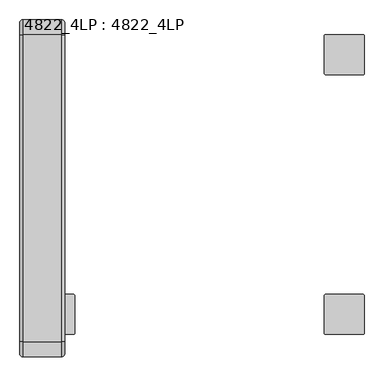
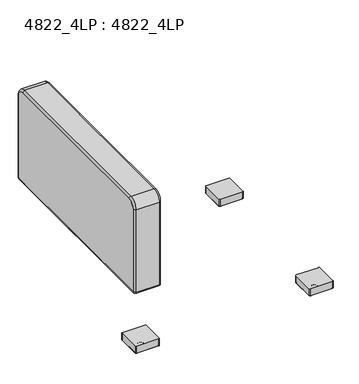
"""IFC4 building model written with IfcOpenShell, lengths in millimetres: furniture geometry, 4822_4LP : 4822_4LP."""

from ifc_helpers import new_model, si_unit, point, frame, frame_2d, origin, place, context, project, spatial, polyline, circle_curve, ellipse_curve, trimmed, segment, composite_curve, outline, extrude, source, transform, mapped, element, save
from ifc_brep_helpers import plane_surface, cylinder_surface, revolved_surface, advanced_brep


def furniture_4822_4lp_4822_4lp_c1b75440(model_context):
    return source(origin(), model_context, "Body", "SolidModel", [
        advanced_brep(
        [(-342.9, -8.89, 698.8175), (-342.9, -38.1, 728.0275), (-342.9, -819.15, 728.0275), (-342.9, -848.36, 698.8175), (-342.9, -848.36, 330.4403326), (-342.9, -847.8021674, 329.8825), (-342.9, -9.4347305, 329.8825), (-342.9, -8.89, 330.4272305), (-457.2, -38.1, 728.0275), (-457.2, -8.89, 698.8175), (-457.2, -8.89, 330.4272305), (-457.2, -9.4347305, 329.8825), (-457.2, -847.8021674, 329.8825), (-457.2, -848.36, 330.4403326), (-457.2, -848.36, 698.8175), (-457.2, -819.15, 728.0275), (-448.31, -38.1, 736.9175), (-448.31, -819.15, 736.9175), (-351.79, -819.15, 736.9175), (-351.79, -38.1, 736.9175), (-448.31, -857.25, 698.8175), (-351.79, -857.25, 698.8175), (-448.31, -857.25, 330.4403326), (-351.79, -857.25, 330.4403326), (-448.31, -847.8021674, 320.9925), (-351.79, -847.8021674, 320.9925), (-448.31, -9.4347305, 320.9925), (-351.79, -9.4347305, 320.9925), (-400.05, -187.325, 320.9925), (-400.05, -161.925, 320.9925), (-400.05, -695.325, 320.9925), (-400.05, -669.925, 320.9925), (-448.31, 0.0, 330.4272305), (-351.79, 0.0, 330.4272305), (-448.31, 0.0, 698.8175), (-351.79, 0.0, 698.8175), (-400.05, -161.925, 333.6925), (-400.05, -187.325, 333.6925), (-400.05, -669.925, 333.6925), (-400.05, -695.325, 333.6925)],
        [
            (0, 1, circle_curve(frame((-342.9, -38.1, 698.8175), z_axis=(1.0, 0.0, 0.0), x_axis=(0.0, 0.0, 1.0)), 29.21)),
            (1, 2),
            (2, 3, circle_curve(frame((-342.9, -819.15, 698.8175), z_axis=(1.0, 0.0, 0.0), x_axis=(0.0, -1.0, 0.0)), 29.21)),
            (3, 4),
            (4, 5, circle_curve(frame((-342.9, -847.8021674, 330.4403326), z_axis=(1.0, 0.0, 0.0), x_axis=(0.0, 0.0, -1.0)), 0.5578326)),
            (5, 6),
            (6, 7, circle_curve(frame((-342.9, -9.4347305, 330.4272305), z_axis=(1.0, 0.0, 0.0), x_axis=(0.0, 1.0, 0.0)), 0.5447305)),
            (7, 0),
            (8, 9, circle_curve(frame((-457.2, -38.1, 698.8175), z_axis=(-1.0, 0.0, 0.0), x_axis=(0.0, 0.0, 1.0)), 29.21)),
            (9, 10),
            (10, 11, circle_curve(frame((-457.2, -9.4347305, 330.4272305), z_axis=(-1.0, 0.0, 0.0), x_axis=(0.0, 1.0, 0.0)), 0.5447305)),
            (11, 12),
            (12, 13, circle_curve(frame((-457.2, -847.8021674, 330.4403326), z_axis=(-1.0, 0.0, 0.0), x_axis=(0.0, 0.0, -1.0)), 0.5578326)),
            (13, 14),
            (14, 15, circle_curve(frame((-457.2, -819.15, 698.8175), z_axis=(-1.0, 0.0, 0.0), x_axis=(0.0, -1.0, 0.0)), 29.21)),
            (15, 8),
            (16, 17),
            (17, 18),
            (18, 19),
            (19, 16),
            (17, 20, circle_curve(frame((-448.31, -819.15, 698.8175), z_axis=(1.0, 0.0, 0.0), x_axis=(0.0, -1.0, 0.0)), 38.1)),
            (20, 21),
            (21, 18, circle_curve(frame((-351.79, -819.15, 698.8175), z_axis=(-1.0, 0.0, 0.0), x_axis=(0.0, -1.0, 0.0)), 38.1)),
            (20, 22),
            (22, 23),
            (23, 21),
            (22, 24, circle_curve(frame((-448.31, -847.8021674, 330.4403326), z_axis=(1.0, 0.0, 0.0), x_axis=(0.0, -1.0, 0.0)), 9.4478326)),
            (24, 25),
            (25, 23, circle_curve(frame((-351.79, -847.8021674, 330.4403326), z_axis=(-1.0, 0.0, 0.0), x_axis=(0.0, -1.0, 0.0)), 9.4478326)),
            (24, 26),
            (26, 27),
            (27, 25),
            (28, 29, circle_curve(frame((-400.05, -174.625, 320.9925), z_axis=(0.0, 0.0, 1.0), x_axis=(-1.0, 0.0, 0.0)), 12.7)),
            (29, 28),
            (30, 31, circle_curve(frame((-400.05, -682.625, 320.9925), z_axis=(0.0, 0.0, 1.0), x_axis=(-1.0, 0.0, 0.0)), 12.7)),
            (31, 30),
            (26, 32, circle_curve(frame((-448.31, -9.4347305, 330.4272305), z_axis=(1.0, 0.0, 0.0), x_axis=(0.0, -1.0, 0.0)), 9.4347305)),
            (32, 33),
            (33, 27, circle_curve(frame((-351.79, -9.4347305, 330.4272305), z_axis=(-1.0, 0.0, 0.0), x_axis=(0.0, -1.0, 0.0)), 9.4347305)),
            (32, 34),
            (34, 35),
            (35, 33),
            (34, 16, circle_curve(frame((-448.31, -38.1, 698.8175), z_axis=(1.0, 0.0, 0.0), x_axis=(0.0, -1.0, 0.0)), 38.1)),
            (19, 35, circle_curve(frame((-351.79, -38.1, 698.8175), z_axis=(-1.0, 0.0, 0.0), x_axis=(0.0, -1.0, 0.0)), 38.1)),
            (34, 9, circle_curve(frame((-448.31, -8.89, 698.8175), z_axis=(0.0, 0.0, 1.0), x_axis=(1.0, 0.0, 0.0)), 8.89)),
            (8, 16, circle_curve(frame((-448.31, -38.1, 728.0275), z_axis=(0.0, 1.0, 0.0), x_axis=(1.0, 0.0, 0.0)), 8.89)),
            (32, 10, circle_curve(frame((-448.31, -8.89, 330.4272305), z_axis=(0.0, 0.0, 1.0), x_axis=(1.0, 0.0, 0.0)), 8.89)),
            (26, 11, circle_curve(frame((-448.31, -9.4347305, 329.8825), z_axis=(0.0, 1.0, 0.0), x_axis=(1.0, 0.0, 0.0)), 8.89)),
            (24, 12, circle_curve(frame((-448.31, -847.8021674, 329.8825), z_axis=(0.0, 1.0, 0.0), x_axis=(1.0, 0.0, 0.0)), 8.89)),
            (22, 13, circle_curve(frame((-448.31, -848.36, 330.4403326), z_axis=(0.0, 0.0, -1.0), x_axis=(1.0, 0.0, 0.0)), 8.89)),
            (20, 14, circle_curve(frame((-448.31, -848.36, 698.8175), z_axis=(0.0, 0.0, -1.0), x_axis=(1.0, 0.0, 0.0)), 8.89)),
            (17, 15, circle_curve(frame((-448.31, -819.15, 728.0275), z_axis=(0.0, -1.0, 0.0), x_axis=(1.0, 0.0, 0.0)), 8.89)),
            (0, 35, circle_curve(frame((-351.79, -8.89, 698.8175), z_axis=(0.0, 0.0, 1.0), x_axis=(-1.0, 0.0, 0.0)), 8.89)),
            (19, 1, circle_curve(frame((-351.79, -38.1, 728.0275), z_axis=(0.0, 1.0, 0.0), x_axis=(-1.0, 0.0, 0.0)), 8.89)),
            (7, 33, circle_curve(frame((-351.79, -8.89, 330.4272305), z_axis=(0.0, 0.0, 1.0), x_axis=(-1.0, 0.0, 0.0)), 8.89)),
            (6, 27, circle_curve(frame((-351.79, -9.4347305, 329.8825), z_axis=(0.0, 1.0, 0.0), x_axis=(-1.0, 0.0, 0.0)), 8.89)),
            (5, 25, circle_curve(frame((-351.79, -847.8021674, 329.8825), z_axis=(0.0, 1.0, 0.0), x_axis=(-1.0, 0.0, 0.0)), 8.89)),
            (4, 23, circle_curve(frame((-351.79, -848.36, 330.4403326), z_axis=(0.0, 0.0, -1.0), x_axis=(-1.0, 0.0, 0.0)), 8.89)),
            (3, 21, circle_curve(frame((-351.79, -848.36, 698.8175), z_axis=(0.0, 0.0, -1.0), x_axis=(-1.0, 0.0, 0.0)), 8.89)),
            (2, 18, circle_curve(frame((-351.79, -819.15, 728.0275), z_axis=(0.0, -1.0, 0.0), x_axis=(-1.0, 0.0, 0.0)), 8.89)),
            (36, 37, circle_curve(frame((-400.05, -174.625, 333.6925), z_axis=(0.0, 0.0, -1.0), x_axis=(-1.0, 0.0, 0.0)), 12.7)),
            (37, 36),
            (38, 39, circle_curve(frame((-400.05, -682.625, 333.6925), z_axis=(0.0, 0.0, -1.0), x_axis=(-1.0, 0.0, 0.0)), 12.7)),
            (39, 38),
            (36, 29),
            (28, 37),
            (38, 31),
            (30, 39),
        ],
        [
            plane_surface(frame((-342.9, -819.15, 736.9175), z_axis=(1.0, 0.0, 0.0), x_axis=(0.0, -1.0, 0.0))),
            plane_surface(frame((-457.2, -819.15, 736.9175), z_axis=(-1.0, 0.0, 0.0), x_axis=(0.0, 1.0, 0.0))),
            plane_surface(frame((-342.9, -38.1, 736.9175), z_axis=(0.0, 0.0, 1.0), x_axis=(-1.0, 0.0, 0.0))),
            cylinder_surface(frame((-457.2, -819.15, 698.8175), z_axis=(1.0, 0.0, 0.0), x_axis=(0.0, -1.0, 0.0)), 38.1),
            plane_surface(frame((-342.9, -857.25, 698.8175), z_axis=(0.0, -1.0, 0.0), x_axis=(-1.0, 0.0, 0.0))),
            cylinder_surface(frame((-457.2, -847.8021674, 330.4403326), z_axis=(1.0, 0.0, 0.0), x_axis=(0.0, -1.0, 0.0)), 9.4478326),
            plane_surface(frame((-342.9, -847.8021674, 320.9925), z_axis=(0.0, 0.0, -1.0), x_axis=(-1.0, 0.0, 0.0))),
            cylinder_surface(frame((-457.2, -9.4347305, 330.4272305), z_axis=(1.0, 0.0, 0.0), x_axis=(0.0, -1.0, 0.0)), 9.4347305),
            plane_surface(frame((-342.9, 0.0, 330.4272305), z_axis=(0.0, 1.0, 0.0), x_axis=(-1.0, 0.0, 0.0))),
            cylinder_surface(frame((-457.2, -38.1, 698.8175), z_axis=(1.0, 0.0, 0.0), x_axis=(0.0, -1.0, 0.0)), 38.1),
            revolved_surface(trimmed(ellipse_curve(frame((-448.31, -38.1, 728.0275), z_axis=(0.0, -1.0, 0.0), x_axis=(1.0, 0.0, 0.0)), 8.89, 8.89), [point((-448.31, -38.1, 736.9175))], [point((-457.2, -38.1, 728.0275))], True, "CARTESIAN"), (-457.2, -38.1, 698.8175), (-1.0, 0.0, 0.0)),
            cylinder_surface(frame((-448.31, -8.89, 698.8175), z_axis=(0.0, 0.0, -1.0), x_axis=(1.0, 0.0, 0.0)), 8.89),
            revolved_surface(trimmed(ellipse_curve(frame((-448.31, -8.89, 330.4272305), z_axis=(0.0, 0.0, 1.0), x_axis=(1.0, 0.0, 0.0)), 8.89, 8.89), [point((-448.31, 0.0, 330.4272305))], [point((-457.2, -8.89, 330.4272305))], True, "CARTESIAN"), (-457.2, -9.4347305, 330.4272305), (-1.0, 0.0, 0.0)),
            cylinder_surface(frame((-448.31, -9.4347305, 329.8825), z_axis=(0.0, -1.0, 0.0), x_axis=(1.0, 0.0, 0.0)), 8.89),
            revolved_surface(trimmed(ellipse_curve(frame((-448.31, -847.8021674, 329.8825), z_axis=(0.0, 1.0, 0.0), x_axis=(1.0, 0.0, 0.0)), 8.89, 8.89), [point((-448.31, -847.8021674, 320.9925))], [point((-457.2, -847.8021674, 329.8825))], True, "CARTESIAN"), (-457.2, -847.8021674, 330.4403326), (-1.0, 0.0, 0.0)),
            cylinder_surface(frame((-448.31, -848.36, 330.4403326), z_axis=(0.0, 0.0, 1.0), x_axis=(1.0, 0.0, 0.0)), 8.89),
            revolved_surface(trimmed(ellipse_curve(frame((-448.31, -848.36, 698.8175), z_axis=(0.0, 0.0, -1.0), x_axis=(1.0, 0.0, 0.0)), 8.89, 8.89), [point((-448.31, -857.25, 698.8175))], [point((-457.2, -848.36, 698.8175))], True, "CARTESIAN"), (-457.2, -819.15, 698.8175), (-1.0, 0.0, 0.0)),
            cylinder_surface(frame((-448.31, -819.15, 728.0275), z_axis=(0.0, 1.0, 0.0), x_axis=(1.0, 0.0, 0.0)), 8.89),
            revolved_surface(trimmed(ellipse_curve(frame((-351.79, -38.1, 728.0275), z_axis=(0.0, -1.0, 0.0), x_axis=(-1.0, 0.0, 0.0)), 8.89, 8.89), [point((-342.9, -38.1, 728.0275))], [point((-351.79, -38.1, 736.9175))], True, "CARTESIAN"), (-342.9, -38.1, 698.8175), (-1.0, 0.0, 0.0)),
            cylinder_surface(frame((-351.79, -8.89, 698.8175), z_axis=(0.0, 0.0, -1.0), x_axis=(-1.0, 0.0, 0.0)), 8.89),
            revolved_surface(trimmed(ellipse_curve(frame((-351.79, -8.89, 330.4272305), z_axis=(0.0, 0.0, 1.0), x_axis=(-1.0, 0.0, 0.0)), 8.89, 8.89), [point((-342.9, -8.89, 330.4272305))], [point((-351.79, 0.0, 330.4272305))], True, "CARTESIAN"), (-342.9, -9.4347305, 330.4272305), (-1.0, 0.0, 0.0)),
            cylinder_surface(frame((-351.79, -9.4347305, 329.8825), z_axis=(0.0, -1.0, 0.0), x_axis=(-1.0, 0.0, 0.0)), 8.89),
            revolved_surface(trimmed(ellipse_curve(frame((-351.79, -847.8021674, 329.8825), z_axis=(0.0, 1.0, 0.0), x_axis=(-1.0, 0.0, 0.0)), 8.89, 8.89), [point((-342.9, -847.8021674, 329.8825))], [point((-351.79, -847.8021674, 320.9925))], True, "CARTESIAN"), (-342.9, -847.8021674, 330.4403326), (-1.0, 0.0, 0.0)),
            cylinder_surface(frame((-351.79, -848.36, 330.4403326), z_axis=(0.0, 0.0, 1.0), x_axis=(-1.0, 0.0, 0.0)), 8.89),
            revolved_surface(trimmed(ellipse_curve(frame((-351.79, -848.36, 698.8175), z_axis=(0.0, 0.0, -1.0), x_axis=(-1.0, 0.0, 0.0)), 8.89, 8.89), [point((-342.9, -848.36, 698.8175))], [point((-351.79, -857.25, 698.8175))], True, "CARTESIAN"), (-342.9, -819.15, 698.8175), (-1.0, 0.0, 0.0)),
            cylinder_surface(frame((-351.79, -819.15, 728.0275), z_axis=(0.0, 1.0, 0.0), x_axis=(-1.0, 0.0, 0.0)), 8.89),
            plane_surface(frame((-400.05, -187.325, 333.6925), z_axis=(0.0, 0.0, -1.0), x_axis=(0.0, -1.0, 0.0))),
            revolved_surface(polyline([(-412.75, -174.625, 333.6925), (-412.75, -174.625, 320.9925)]), (-400.05, -174.625, 320.9925), (0.0, 0.0, 1.0)),
            plane_surface(frame((-400.05, -161.925, 333.6925), z_axis=(1.0, 0.0, 0.0), x_axis=(0.0, 0.0, -1.0))),
            revolved_surface(polyline([(-412.75, -682.625, 333.6925), (-412.75, -682.625, 320.9925)]), (-400.05, -682.625, 9.8425), (0.0, 0.0, 1.0)),
            plane_surface(frame((-400.05, -669.925, 333.6925), z_axis=(1.0, 0.0, 0.0), x_axis=(0.0, 0.0, -1.0))),
        ],
        [
            (0, [[1, 2, 3, 4, 5, 6, 7, 8]]),
            (1, [[9, 10, 11, 12, 13, 14, 15, 16]]),
            (2, [[17, 18, 19, 20]]),
            (3, [[21, 22, 23, -18]]),
            (4, [[24, 25, 26, -22]]),
            (5, [[27, 28, 29, -25]]),
            (6, [[30, 31, 32, -28], [33, 34], [35, 36]]),
            (7, [[37, 38, 39, -31]]),
            (8, [[40, 41, 42, -38]]),
            (9, [[43, -20, 44, -41]]),
            (10, [[45, -9, 46, -43]]),
            (11, [[-45, -40, 47, -10]]),
            (12, [[-47, -37, 48, -11]]),
            (13, [[-48, -30, 49, -12]]),
            (14, [[-49, -27, 50, -13]]),
            (15, [[-50, -24, 51, -14]]),
            (16, [[-51, -21, 52, -15]]),
            (17, [[-46, -16, -52, -17]]),
            (18, [[53, -44, 54, -1]]),
            (19, [[-53, -8, 55, -42]]),
            (20, [[-55, -7, 56, -39]]),
            (21, [[-56, -6, 57, -32]]),
            (22, [[-57, -5, 58, -29]]),
            (23, [[-58, -4, 59, -26]]),
            (24, [[-59, -3, 60, -23]]),
            (25, [[-54, -19, -60, -2]]),
            (26, [[61, 62]]),
            (26, [[63, 64]]),
            (27, [[-61, 65, -33, 66]]),
            (28, [[-62, -66, -34, -65]]),
            (29, [[-63, 67, -35, 68]]),
            (30, [[-64, -68, -36, -67]]),
        ],
    ),
        advanced_brep(
        [(-320.675, -698.5, 41.5925), (-415.925, -698.5, 41.5925), (-419.1, -701.675, 41.5925), (-419.1, -796.925, 41.5925), (-415.925, -800.1, 41.5925), (-320.675, -800.1, 41.5925), (-317.5, -796.925, 41.5925), (-317.5, -701.675, 41.5925), (-417.83, -701.675, 11.1125), (-415.925, -699.77, 11.1125), (-320.675, -699.77, 11.1125), (-318.77, -701.675, 11.1125), (-318.77, -796.925, 11.1125), (-320.675, -798.83, 11.1125), (-415.925, -798.83, 11.1125), (-417.83, -796.925, 11.1125), (-320.675, -698.5, 11.1125), (-415.925, -698.5, 11.1125), (-419.1, -701.675, 11.1125), (-419.1, -796.925, 11.1125), (-415.925, -800.1, 11.1125), (-320.675, -800.1, 11.1125), (-317.5, -796.925, 11.1125), (-317.5, -701.675, 11.1125), (-415.925, -699.77, 9.8425), (-417.83, -701.675, 9.8425), (-320.675, -699.77, 9.8425), (-318.77, -701.675, 9.8425), (-318.77, -796.925, 9.8425), (-320.675, -798.83, 9.8425), (-415.925, -798.83, 9.8425), (-417.83, -796.925, 9.8425)],
        [
            (0, 1),
            (1, 2, circle_curve(frame((-415.925, -701.675, 41.5925), z_axis=(0.0, 0.0, 1.0), x_axis=(1.0, 0.0, 0.0)), 3.175)),
            (2, 3),
            (3, 4, circle_curve(frame((-415.925, -796.925, 41.5925), z_axis=(0.0, 0.0, 1.0), x_axis=(1.0, 0.0, 0.0)), 3.175)),
            (4, 5),
            (5, 6, circle_curve(frame((-320.675, -796.925, 41.5925), z_axis=(0.0, 0.0, 1.0), x_axis=(1.0, 0.0, 0.0)), 3.175)),
            (6, 7),
            (7, 0, circle_curve(frame((-320.675, -701.675, 41.5925), z_axis=(0.0, 0.0, 1.0), x_axis=(1.0, 0.0, 0.0)), 3.175)),
            (8, 9, circle_curve(frame((-415.925, -701.675, 11.1125), z_axis=(0.0, 0.0, -1.0), x_axis=(-1.0, 0.0, 0.0)), 1.905)),
            (9, 10),
            (10, 11, circle_curve(frame((-320.675, -701.675, 11.1125), z_axis=(0.0, 0.0, -1.0), x_axis=(0.0, 1.0, 0.0)), 1.905)),
            (11, 12),
            (12, 13, circle_curve(frame((-320.675, -796.925, 11.1125), z_axis=(0.0, 0.0, -1.0), x_axis=(1.0, 0.0, 0.0)), 1.905)),
            (13, 14),
            (14, 15, circle_curve(frame((-415.925, -796.925, 11.1125), z_axis=(0.0, 0.0, -1.0), x_axis=(0.0, -1.0, 0.0)), 1.905)),
            (15, 8),
            (0, 16),
            (16, 17),
            (17, 1),
            (17, 18, circle_curve(frame((-415.925, -701.675, 11.1125), z_axis=(0.0, 0.0, 1.0), x_axis=(1.0, 0.0, 0.0)), 3.175)),
            (18, 2),
            (18, 19),
            (19, 3),
            (19, 20, circle_curve(frame((-415.925, -796.925, 11.1125), z_axis=(0.0, 0.0, 1.0), x_axis=(1.0, 0.0, 0.0)), 3.175)),
            (20, 4),
            (20, 21),
            (21, 5),
            (21, 22, circle_curve(frame((-320.675, -796.925, 11.1125), z_axis=(0.0, 0.0, 1.0), x_axis=(1.0, 0.0, 0.0)), 3.175)),
            (22, 6),
            (22, 23),
            (23, 7),
            (23, 16, circle_curve(frame((-320.675, -701.675, 11.1125), z_axis=(0.0, 0.0, 1.0), x_axis=(1.0, 0.0, 0.0)), 3.175)),
            (24, 25, circle_curve(frame((-415.925, -701.675, 9.8425), z_axis=(0.0, 0.0, 1.0), x_axis=(-1.0, 0.0, 0.0)), 1.905)),
            (25, 18, circle_curve(frame((-417.83, -701.675, 11.1125), z_axis=(0.0, 1.0, 0.0), x_axis=(1.0, 0.0, 0.0)), 1.27)),
            (17, 24, circle_curve(frame((-415.925, -699.77, 11.1125), z_axis=(-1.0, 0.0, 0.0), x_axis=(0.0, -1.0, 0.0)), 1.27)),
            (16, 26, circle_curve(frame((-320.675, -699.77, 11.1125), z_axis=(-1.0, 0.0, 0.0), x_axis=(0.0, -1.0, 0.0)), 1.27)),
            (26, 24),
            (23, 27, circle_curve(frame((-318.77, -701.675, 11.1125), z_axis=(0.0, 1.0, 0.0), x_axis=(-1.0, 0.0, 0.0)), 1.27)),
            (27, 26, circle_curve(frame((-320.675, -701.675, 9.8425), z_axis=(0.0, 0.0, 1.0), x_axis=(0.0, 1.0, 0.0)), 1.905)),
            (22, 28, circle_curve(frame((-318.77, -796.925, 11.1125), z_axis=(0.0, 1.0, 0.0), x_axis=(-1.0, 0.0, 0.0)), 1.27)),
            (28, 27),
            (21, 29, circle_curve(frame((-320.675, -798.83, 11.1125), z_axis=(1.0, 0.0, 0.0), x_axis=(0.0, 1.0, 0.0)), 1.27)),
            (29, 28, circle_curve(frame((-320.675, -796.925, 9.8425), z_axis=(0.0, 0.0, 1.0), x_axis=(1.0, 0.0, 0.0)), 1.905)),
            (20, 30, circle_curve(frame((-415.925, -798.83, 11.1125), z_axis=(1.0, 0.0, 0.0), x_axis=(0.0, 1.0, 0.0)), 1.27)),
            (30, 29),
            (19, 31, circle_curve(frame((-417.83, -796.925, 11.1125), z_axis=(0.0, -1.0, 0.0), x_axis=(1.0, 0.0, 0.0)), 1.27)),
            (31, 30, circle_curve(frame((-415.925, -796.925, 9.8425), z_axis=(0.0, 0.0, 1.0), x_axis=(0.0, -1.0, 0.0)), 1.905)),
            (25, 31),
            (24, 9),
            (8, 25),
            (26, 10),
            (27, 11),
            (28, 12),
            (29, 13),
            (30, 14),
            (31, 15),
        ],
        [
            plane_surface(frame((-415.925, -698.5, 41.5925), z_axis=(0.0, 0.0, 1.0), x_axis=(-1.0, 0.0, 0.0))),
            plane_surface(frame((-415.925, -698.5, 11.1125), z_axis=(0.0, 0.0, -1.0), x_axis=(1.0, 0.0, 0.0))),
            plane_surface(frame((-320.675, -698.5, 41.5925), z_axis=(0.0, 1.0, 0.0), x_axis=(0.0, 0.0, -1.0))),
            cylinder_surface(frame((-415.925, -701.675, 11.1125), z_axis=(0.0, 0.0, 1.0), x_axis=(1.0, 0.0, 0.0)), 3.175),
            plane_surface(frame((-419.1, -701.675, 41.5925), z_axis=(-1.0, 0.0, 0.0), x_axis=(0.0, 0.0, -1.0))),
            cylinder_surface(frame((-415.925, -796.925, 11.1125), z_axis=(0.0, 0.0, 1.0), x_axis=(1.0, 0.0, 0.0)), 3.175),
            plane_surface(frame((-415.925, -800.1, 41.5925), z_axis=(0.0, -1.0, 0.0), x_axis=(0.0, 0.0, -1.0))),
            cylinder_surface(frame((-320.675, -796.925, 11.1125), z_axis=(0.0, 0.0, 1.0), x_axis=(1.0, 0.0, 0.0)), 3.175),
            plane_surface(frame((-317.5, -796.925, 41.5925), z_axis=(1.0, 0.0, 0.0), x_axis=(0.0, 0.0, -1.0))),
            cylinder_surface(frame((-320.675, -701.675, 11.1125), z_axis=(0.0, 0.0, 1.0), x_axis=(1.0, 0.0, 0.0)), 3.175),
            revolved_surface(trimmed(ellipse_curve(frame((-417.83, -701.675, 11.1125), z_axis=(0.0, -1.0, 0.0), x_axis=(1.0, 0.0, 0.0)), 1.27, 1.27), [point((-419.1, -701.675, 11.1125))], [point((-417.83, -701.675, 9.8425))], True, "CARTESIAN"), (-415.925, -701.675, 11.1125), (0.0, 0.0, -1.0)),
            cylinder_surface(frame((-415.925, -699.77, 11.1125), z_axis=(-1.0, 0.0, 0.0), x_axis=(0.0, -1.0, 0.0)), 1.27),
            revolved_surface(trimmed(ellipse_curve(frame((-320.675, -699.77, 11.1125), z_axis=(-1.0, 0.0, 0.0), x_axis=(0.0, -1.0, 0.0)), 1.27, 1.27), [point((-320.675, -698.5, 11.1125))], [point((-320.675, -699.77, 9.8425))], True, "CARTESIAN"), (-320.675, -701.675, 11.1125), (0.0, 0.0, -1.0)),
            cylinder_surface(frame((-318.77, -701.675, 11.1125), z_axis=(0.0, 1.0, 0.0), x_axis=(-1.0, 0.0, 0.0)), 1.27),
            revolved_surface(trimmed(ellipse_curve(frame((-318.77, -796.925, 11.1125), z_axis=(0.0, 1.0, 0.0), x_axis=(-1.0, 0.0, 0.0)), 1.27, 1.27), [point((-317.5, -796.925, 11.1125))], [point((-318.77, -796.925, 9.8425))], True, "CARTESIAN"), (-320.675, -796.925, 11.1125), (0.0, 0.0, -1.0)),
            cylinder_surface(frame((-320.675, -798.83, 11.1125), z_axis=(1.0, 0.0, 0.0), x_axis=(0.0, 1.0, 0.0)), 1.27),
            revolved_surface(trimmed(ellipse_curve(frame((-415.925, -798.83, 11.1125), z_axis=(1.0, 0.0, 0.0), x_axis=(0.0, 1.0, 0.0)), 1.27, 1.27), [point((-415.925, -800.1, 11.1125))], [point((-415.925, -798.83, 9.8425))], True, "CARTESIAN"), (-415.925, -796.925, 11.1125), (0.0, 0.0, -1.0)),
            cylinder_surface(frame((-417.83, -796.925, 11.1125), z_axis=(0.0, -1.0, 0.0), x_axis=(1.0, 0.0, 0.0)), 1.27),
            revolved_surface(polyline([(-417.83, -701.675, 9.8425), (-417.83, -701.675, 11.1125)]), (-415.925, -701.675, 11.1125), (0.0, 0.0, -1.0)),
            plane_surface(frame((-415.925, -699.77, 9.8425), z_axis=(0.0, -1.0, 0.0), x_axis=(1.0, 0.0, 0.0))),
            revolved_surface(polyline([(-320.675, -699.77, 9.8425), (-320.675, -699.77, 11.1125)]), (-320.675, -701.675, 11.1125), (0.0, 0.0, -1.0)),
            plane_surface(frame((-318.77, -701.675, 9.8425), z_axis=(-1.0, 0.0, 0.0), x_axis=(0.0, -1.0, 0.0))),
            revolved_surface(polyline([(-318.77000000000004, -796.925, 9.8425), (-318.77000000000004, -796.925, 11.1125)]), (-320.675, -796.925, 11.1125), (0.0, 0.0, -1.0)),
            plane_surface(frame((-320.675, -798.83, 9.8425), z_axis=(0.0, 1.0, 0.0), x_axis=(-1.0, 0.0, 0.0))),
            revolved_surface(polyline([(-415.925, -798.8299999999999, 9.8425), (-415.925, -798.8299999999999, 11.1125)]), (-415.925, -796.925, 11.1125), (0.0, 0.0, -1.0)),
            plane_surface(frame((-417.83, -796.925, 9.8425), z_axis=(1.0, 0.0, 0.0), x_axis=(0.0, 1.0, 0.0))),
        ],
        [
            (0, [[1, 2, 3, 4, 5, 6, 7, 8]]),
            (1, [[9, 10, 11, 12, 13, 14, 15, 16]]),
            (2, [[-1, 17, 18, 19]]),
            (3, [[-2, -19, 20, 21]]),
            (4, [[-3, -21, 22, 23]]),
            (5, [[-4, -23, 24, 25]]),
            (6, [[-5, -25, 26, 27]]),
            (7, [[-6, -27, 28, 29]]),
            (8, [[-7, -29, 30, 31]]),
            (9, [[-8, -31, 32, -17]]),
            (10, [[33, 34, -20, 35]]),
            (11, [[-35, -18, 36, 37]]),
            (12, [[-36, -32, 38, 39]]),
            (13, [[-38, -30, 40, 41]]),
            (14, [[-40, -28, 42, 43]]),
            (15, [[-42, -26, 44, 45]]),
            (16, [[-44, -24, 46, 47]]),
            (17, [[-34, 48, -46, -22]]),
            (18, [[-33, 49, -9, 50]]),
            (19, [[-37, 51, -10, -49]]),
            (20, [[-39, 52, -11, -51]]),
            (21, [[-41, 53, -12, -52]]),
            (22, [[-43, 54, -13, -53]]),
            (23, [[-45, 55, -14, -54]]),
            (24, [[-47, 56, -15, -55]]),
            (25, [[-48, -50, -16, -56]]),
        ],
    ),
        extrude(outline(composite_curve([segment(trimmed(circle_curve(frame_2d((-415.925, -796.925)), 1.905), [point((-415.925, -798.83))], [point((-417.83, -796.925))], False, "CARTESIAN"), True, "CONTINUOUS"), segment(polyline([(-417.83, -796.925), (-417.83, -701.675)]), True, "CONTINUOUS"), segment(trimmed(circle_curve(frame_2d((-415.925, -701.675)), 1.905), [point((-417.83, -701.675))], [point((-415.925, -699.77))], False, "CARTESIAN"), True, "CONTINUOUS"), segment(polyline([(-415.925, -699.77), (-320.675, -699.77)]), True, "CONTINUOUS"), segment(trimmed(circle_curve(frame_2d((-320.675, -701.675)), 1.905), [point((-320.675, -699.77))], [point((-318.77, -701.675))], False, "CARTESIAN"), True, "CONTINUOUS"), segment(polyline([(-318.77, -701.675), (-318.77, -796.925)]), True, "CONTINUOUS"), segment(trimmed(circle_curve(frame_2d((-320.675, -796.925)), 1.905), [point((-318.77, -796.925))], [point((-320.675, -798.83))], False, "CARTESIAN"), True, "CONTINUOUS"), segment(polyline([(-320.675, -798.83), (-415.925, -798.83)]), True, "CONTINUOUS")], self_intersect=False)), frame((0.0, 0.0, 9.8425), z_axis=(0.0, 0.0, 1.0), x_axis=(1.0, 0.0, 0.0)), (0.0, 0.0, 1.0), 1.27),
        advanced_brep(
        [(-378.4521334, -749.3, 0.0), (-358.1478666, -749.3, 0.0), (-368.3, -749.3, 0.0), (-378.7775, -749.3, 5.08), (-357.8225, -749.3, 5.08), (-378.7775, -749.3, 9.0481974), (-357.8225, -749.3, 9.0481974), (-377.9831974, -749.3, 9.8425), (-358.6168026, -749.3, 9.8425), (-368.3, -749.3, 9.8425)],
        [
            (0, 1, circle_curve(frame((-368.3, -749.3, 0.0), z_axis=(0.0, 0.0, -1.0), x_axis=(1.0, 0.0, 0.0)), 10.1521334)),
            (1, 2),
            (2, 0),
            (1, 0, circle_curve(frame((-368.3, -749.3, 0.0), z_axis=(0.0, 0.0, -1.0), x_axis=(1.0, 0.0, 0.0)), 10.1521334)),
            (3, 4, circle_curve(frame((-368.3, -749.3, 5.08), z_axis=(0.0, 0.0, -1.0), x_axis=(1.0, 0.0, 0.0)), 10.4775)),
            (4, 1, circle_curve(frame((-358.1478666, -749.3, 2.5504196), z_axis=(0.0, 1.0, 0.0), x_axis=(1.0, 0.0, 0.0)), 2.5504196)),
            (0, 3, circle_curve(frame((-378.4521334, -749.3, 2.5504196), z_axis=(0.0, 1.0, 0.0), x_axis=(-1.0, 0.0, 0.0)), 2.5504196)),
            (4, 3, circle_curve(frame((-368.3, -749.3, 5.08), z_axis=(0.0, 0.0, -1.0), x_axis=(1.0, 0.0, 0.0)), 10.4775)),
            (5, 6, circle_curve(frame((-368.3, -749.3, 9.0481974), z_axis=(0.0, 0.0, -1.0), x_axis=(1.0, 0.0, 0.0)), 10.4775)),
            (6, 4),
            (3, 5),
            (6, 5, circle_curve(frame((-368.3, -749.3, 9.0481974), z_axis=(0.0, 0.0, -1.0), x_axis=(1.0, 0.0, 0.0)), 10.4775)),
            (7, 8, circle_curve(frame((-368.3, -749.3, 9.8425), z_axis=(0.0, 0.0, -1.0), x_axis=(1.0, 0.0, 0.0)), 9.6831974)),
            (8, 6, circle_curve(frame((-358.6168026, -749.3, 9.0481974), z_axis=(0.0, 1.0, 0.0), x_axis=(1.0, 0.0, 0.0)), 0.7943026)),
            (5, 7, circle_curve(frame((-377.9831974, -749.3, 9.0481974), z_axis=(0.0, 1.0, 0.0), x_axis=(-1.0, 0.0, 0.0)), 0.7943026)),
            (8, 7, circle_curve(frame((-368.3, -749.3, 9.8425), z_axis=(0.0, 0.0, -1.0), x_axis=(1.0, 0.0, 0.0)), 9.6831974)),
            (9, 8),
            (7, 9),
        ],
        [
            plane_surface(frame((-368.3, -749.3, 0.0), z_axis=(0.0, 0.0, -1.0), x_axis=(1.0, 0.0, 0.0))),
            revolved_surface(trimmed(ellipse_curve(frame((-358.1478666, -749.3, 2.5504196), z_axis=(0.0, -1.0, 0.0), x_axis=(1.0, 0.0, 0.0)), 2.5504196, 2.5504196), [point((-358.1478666, -749.3, 0.0))], [point((-357.8225, -749.3, 5.08))], True, "CARTESIAN"), (-368.3, -749.3, 9.8425), (0.0, 0.0, 1.0)),
            cylinder_surface(frame((-368.3, -749.3, 9.8425), z_axis=(0.0, 0.0, 1.0), x_axis=(1.0, 0.0, 0.0)), 10.4775),
            revolved_surface(trimmed(ellipse_curve(frame((-358.6168026, -749.3, 9.0481974), z_axis=(0.0, -1.0, 0.0), x_axis=(1.0, 0.0, 0.0)), 0.7943026, 0.7943026), [point((-357.8225, -749.3, 9.0481974))], [point((-358.6168026, -749.3, 9.8425))], True, "CARTESIAN"), (-368.3, -749.3, 9.8425), (0.0, 0.0, 1.0)),
            plane_surface(frame((-368.3, -749.3, 9.8425), z_axis=(0.0, 0.0, 1.0), x_axis=(1.0, 0.0, 0.0))),
        ],
        [
            (0, [[1, 2, 3]]),
            (0, [[4, -3, -2]]),
            (1, [[5, 6, -1, 7]]),
            (1, [[8, -7, -4, -6]]),
            (2, [[9, 10, -5, 11]]),
            (2, [[12, -11, -8, -10]]),
            (3, [[13, 14, -9, 15]]),
            (3, [[16, -15, -12, -14]]),
            (4, [[17, -13, 18]]),
            (4, [[-18, -16, -17]]),
        ],
    ),
        advanced_brep(
        [(415.925, -698.5, 41.5925), (320.675, -698.5, 41.5925), (317.5, -701.675, 41.5925), (317.5, -796.925, 41.5925), (320.675, -800.1, 41.5925), (415.925, -800.1, 41.5925), (419.1, -796.925, 41.5925), (419.1, -701.675, 41.5925), (318.77, -701.675, 11.1125), (320.675, -699.77, 11.1125), (415.925, -699.77, 11.1125), (417.83, -701.675, 11.1125), (417.83, -796.925, 11.1125), (415.925, -798.83, 11.1125), (320.675, -798.83, 11.1125), (318.77, -796.925, 11.1125), (415.925, -698.5, 11.1125), (320.675, -698.5, 11.1125), (317.5, -701.675, 11.1125), (317.5, -796.925, 11.1125), (320.675, -800.1, 11.1125), (415.925, -800.1, 11.1125), (419.1, -796.925, 11.1125), (419.1, -701.675, 11.1125), (320.675, -699.77, 9.8425), (318.77, -701.675, 9.8425), (415.925, -699.77, 9.8425), (417.83, -701.675, 9.8425), (417.83, -796.925, 9.8425), (415.925, -798.83, 9.8425), (320.675, -798.83, 9.8425), (318.77, -796.925, 9.8425)],
        [
            (0, 1),
            (1, 2, circle_curve(frame((320.675, -701.675, 41.5925), z_axis=(0.0, 0.0, 1.0), x_axis=(1.0, 0.0, 0.0)), 3.175)),
            (2, 3),
            (3, 4, circle_curve(frame((320.675, -796.925, 41.5925), z_axis=(0.0, 0.0, 1.0), x_axis=(1.0, 0.0, 0.0)), 3.175)),
            (4, 5),
            (5, 6, circle_curve(frame((415.925, -796.925, 41.5925), z_axis=(0.0, 0.0, 1.0), x_axis=(1.0, 0.0, 0.0)), 3.175)),
            (6, 7),
            (7, 0, circle_curve(frame((415.925, -701.675, 41.5925), z_axis=(0.0, 0.0, 1.0), x_axis=(1.0, 0.0, 0.0)), 3.175)),
            (8, 9, circle_curve(frame((320.675, -701.675, 11.1125), z_axis=(0.0, 0.0, -1.0), x_axis=(-1.0, 0.0, 0.0)), 1.905)),
            (9, 10),
            (10, 11, circle_curve(frame((415.925, -701.675, 11.1125), z_axis=(0.0, 0.0, -1.0), x_axis=(0.0, 1.0, 0.0)), 1.905)),
            (11, 12),
            (12, 13, circle_curve(frame((415.925, -796.925, 11.1125), z_axis=(0.0, 0.0, -1.0), x_axis=(1.0, 0.0, 0.0)), 1.905)),
            (13, 14),
            (14, 15, circle_curve(frame((320.675, -796.925, 11.1125), z_axis=(0.0, 0.0, -1.0), x_axis=(0.0, -1.0, 0.0)), 1.905)),
            (15, 8),
            (0, 16),
            (16, 17),
            (17, 1),
            (17, 18, circle_curve(frame((320.675, -701.675, 11.1125), z_axis=(0.0, 0.0, 1.0), x_axis=(1.0, 0.0, 0.0)), 3.175)),
            (18, 2),
            (18, 19),
            (19, 3),
            (19, 20, circle_curve(frame((320.675, -796.925, 11.1125), z_axis=(0.0, 0.0, 1.0), x_axis=(1.0, 0.0, 0.0)), 3.175)),
            (20, 4),
            (20, 21),
            (21, 5),
            (21, 22, circle_curve(frame((415.925, -796.925, 11.1125), z_axis=(0.0, 0.0, 1.0), x_axis=(1.0, 0.0, 0.0)), 3.175)),
            (22, 6),
            (22, 23),
            (23, 7),
            (23, 16, circle_curve(frame((415.925, -701.675, 11.1125), z_axis=(0.0, 0.0, 1.0), x_axis=(1.0, 0.0, 0.0)), 3.175)),
            (24, 25, circle_curve(frame((320.675, -701.675, 9.8425), z_axis=(0.0, 0.0, 1.0), x_axis=(-1.0, 0.0, 0.0)), 1.905)),
            (25, 18, circle_curve(frame((318.77, -701.675, 11.1125), z_axis=(0.0, 1.0, 0.0), x_axis=(1.0, 0.0, 0.0)), 1.27)),
            (17, 24, circle_curve(frame((320.675, -699.77, 11.1125), z_axis=(-1.0, 0.0, 0.0), x_axis=(0.0, -1.0, 0.0)), 1.27)),
            (16, 26, circle_curve(frame((415.925, -699.77, 11.1125), z_axis=(-1.0, 0.0, 0.0), x_axis=(0.0, -1.0, 0.0)), 1.27)),
            (26, 24),
            (23, 27, circle_curve(frame((417.83, -701.675, 11.1125), z_axis=(0.0, 1.0, 0.0), x_axis=(-1.0, 0.0, 0.0)), 1.27)),
            (27, 26, circle_curve(frame((415.925, -701.675, 9.8425), z_axis=(0.0, 0.0, 1.0), x_axis=(0.0, 1.0, 0.0)), 1.905)),
            (22, 28, circle_curve(frame((417.83, -796.925, 11.1125), z_axis=(0.0, 1.0, 0.0), x_axis=(-1.0, 0.0, 0.0)), 1.27)),
            (28, 27),
            (21, 29, circle_curve(frame((415.925, -798.83, 11.1125), z_axis=(1.0, 0.0, 0.0), x_axis=(0.0, 1.0, 0.0)), 1.27)),
            (29, 28, circle_curve(frame((415.925, -796.925, 9.8425), z_axis=(0.0, 0.0, 1.0), x_axis=(1.0, 0.0, 0.0)), 1.905)),
            (20, 30, circle_curve(frame((320.675, -798.83, 11.1125), z_axis=(1.0, 0.0, 0.0), x_axis=(0.0, 1.0, 0.0)), 1.27)),
            (30, 29),
            (19, 31, circle_curve(frame((318.77, -796.925, 11.1125), z_axis=(0.0, -1.0, 0.0), x_axis=(1.0, 0.0, 0.0)), 1.27)),
            (31, 30, circle_curve(frame((320.675, -796.925, 9.8425), z_axis=(0.0, 0.0, 1.0), x_axis=(0.0, -1.0, 0.0)), 1.905)),
            (25, 31),
            (24, 9),
            (8, 25),
            (26, 10),
            (27, 11),
            (28, 12),
            (29, 13),
            (30, 14),
            (31, 15),
        ],
        [
            plane_surface(frame((320.675, -698.5, 41.5925), z_axis=(0.0, 0.0, 1.0), x_axis=(-1.0, 0.0, 0.0))),
            plane_surface(frame((320.675, -698.5, 11.1125), z_axis=(0.0, 0.0, -1.0), x_axis=(1.0, 0.0, 0.0))),
            plane_surface(frame((415.925, -698.5, 41.5925), z_axis=(0.0, 1.0, 0.0), x_axis=(0.0, 0.0, -1.0))),
            cylinder_surface(frame((320.675, -701.675, 11.1125), z_axis=(0.0, 0.0, 1.0), x_axis=(1.0, 0.0, 0.0)), 3.175),
            plane_surface(frame((317.5, -701.675, 41.5925), z_axis=(-1.0, 0.0, 0.0), x_axis=(0.0, 0.0, -1.0))),
            cylinder_surface(frame((320.675, -796.925, 11.1125), z_axis=(0.0, 0.0, 1.0), x_axis=(1.0, 0.0, 0.0)), 3.175),
            plane_surface(frame((320.675, -800.1, 41.5925), z_axis=(0.0, -1.0, 0.0), x_axis=(0.0, 0.0, -1.0))),
            cylinder_surface(frame((415.925, -796.925, 11.1125), z_axis=(0.0, 0.0, 1.0), x_axis=(1.0, 0.0, 0.0)), 3.175),
            plane_surface(frame((419.1, -796.925, 41.5925), z_axis=(1.0, 0.0, 0.0), x_axis=(0.0, 0.0, -1.0))),
            cylinder_surface(frame((415.925, -701.675, 11.1125), z_axis=(0.0, 0.0, 1.0), x_axis=(1.0, 0.0, 0.0)), 3.175),
            revolved_surface(trimmed(ellipse_curve(frame((318.77, -701.675, 11.1125), z_axis=(0.0, -1.0, 0.0), x_axis=(1.0, 0.0, 0.0)), 1.27, 1.27), [point((317.5, -701.675, 11.1125))], [point((318.77, -701.675, 9.8425))], True, "CARTESIAN"), (320.675, -701.675, 11.1125), (0.0, 0.0, -1.0)),
            cylinder_surface(frame((320.675, -699.77, 11.1125), z_axis=(-1.0, 0.0, 0.0), x_axis=(0.0, -1.0, 0.0)), 1.27),
            revolved_surface(trimmed(ellipse_curve(frame((415.925, -699.77, 11.1125), z_axis=(-1.0, 0.0, 0.0), x_axis=(0.0, -1.0, 0.0)), 1.27, 1.27), [point((415.925, -698.5, 11.1125))], [point((415.925, -699.77, 9.8425))], True, "CARTESIAN"), (415.925, -701.675, 11.1125), (0.0, 0.0, -1.0)),
            cylinder_surface(frame((417.83, -701.675, 11.1125), z_axis=(0.0, 1.0, 0.0), x_axis=(-1.0, 0.0, 0.0)), 1.27),
            revolved_surface(trimmed(ellipse_curve(frame((417.83, -796.925, 11.1125), z_axis=(0.0, 1.0, 0.0), x_axis=(-1.0, 0.0, 0.0)), 1.27, 1.27), [point((419.1, -796.925, 11.1125))], [point((417.83, -796.925, 9.8425))], True, "CARTESIAN"), (415.925, -796.925, 11.1125), (0.0, 0.0, -1.0)),
            cylinder_surface(frame((415.925, -798.83, 11.1125), z_axis=(1.0, 0.0, 0.0), x_axis=(0.0, 1.0, 0.0)), 1.27),
            revolved_surface(trimmed(ellipse_curve(frame((320.675, -798.83, 11.1125), z_axis=(1.0, 0.0, 0.0), x_axis=(0.0, 1.0, 0.0)), 1.27, 1.27), [point((320.675, -800.1, 11.1125))], [point((320.675, -798.83, 9.8425))], True, "CARTESIAN"), (320.675, -796.925, 11.1125), (0.0, 0.0, -1.0)),
            cylinder_surface(frame((318.77, -796.925, 11.1125), z_axis=(0.0, -1.0, 0.0), x_axis=(1.0, 0.0, 0.0)), 1.27),
            revolved_surface(polyline([(318.77000000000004, -701.675, 9.8425), (318.77000000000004, -701.675, 11.1125)]), (320.675, -701.675, 11.1125), (0.0, 0.0, -1.0)),
            plane_surface(frame((320.675, -699.77, 9.8425), z_axis=(0.0, -1.0, 0.0), x_axis=(1.0, 0.0, 0.0))),
            revolved_surface(polyline([(415.925, -699.77, 9.8425), (415.925, -699.77, 11.1125)]), (415.925, -701.675, 11.1125), (0.0, 0.0, -1.0)),
            plane_surface(frame((417.83, -701.675, 9.8425), z_axis=(-1.0, 0.0, 0.0), x_axis=(0.0, -1.0, 0.0))),
            revolved_surface(polyline([(417.83, -796.925, 9.8425), (417.83, -796.925, 11.1125)]), (415.925, -796.925, 11.1125), (0.0, 0.0, -1.0)),
            plane_surface(frame((415.925, -798.83, 9.8425), z_axis=(0.0, 1.0, 0.0), x_axis=(-1.0, 0.0, 0.0))),
            revolved_surface(polyline([(320.675, -798.8299999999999, 9.8425), (320.675, -798.8299999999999, 11.1125)]), (320.675, -796.925, 11.1125), (0.0, 0.0, -1.0)),
            plane_surface(frame((318.77, -796.925, 9.8425), z_axis=(1.0, 0.0, 0.0), x_axis=(0.0, 1.0, 0.0))),
        ],
        [
            (0, [[1, 2, 3, 4, 5, 6, 7, 8]]),
            (1, [[9, 10, 11, 12, 13, 14, 15, 16]]),
            (2, [[-1, 17, 18, 19]]),
            (3, [[-2, -19, 20, 21]]),
            (4, [[-3, -21, 22, 23]]),
            (5, [[-4, -23, 24, 25]]),
            (6, [[-5, -25, 26, 27]]),
            (7, [[-6, -27, 28, 29]]),
            (8, [[-7, -29, 30, 31]]),
            (9, [[-8, -31, 32, -17]]),
            (10, [[33, 34, -20, 35]]),
            (11, [[-35, -18, 36, 37]]),
            (12, [[-36, -32, 38, 39]]),
            (13, [[-38, -30, 40, 41]]),
            (14, [[-40, -28, 42, 43]]),
            (15, [[-42, -26, 44, 45]]),
            (16, [[-44, -24, 46, 47]]),
            (17, [[-34, 48, -46, -22]]),
            (18, [[-33, 49, -9, 50]]),
            (19, [[-37, 51, -10, -49]]),
            (20, [[-39, 52, -11, -51]]),
            (21, [[-41, 53, -12, -52]]),
            (22, [[-43, 54, -13, -53]]),
            (23, [[-45, 55, -14, -54]]),
            (24, [[-47, 56, -15, -55]]),
            (25, [[-48, -50, -16, -56]]),
        ],
    ),
        extrude(outline(composite_curve([segment(trimmed(circle_curve(frame_2d((320.675, -796.925)), 1.905), [point((320.675, -798.83))], [point((318.77, -796.925))], False, "CARTESIAN"), True, "CONTINUOUS"), segment(polyline([(318.77, -796.925), (318.77, -701.675)]), True, "CONTINUOUS"), segment(trimmed(circle_curve(frame_2d((320.675, -701.675)), 1.905), [point((318.77, -701.675))], [point((320.675, -699.77))], False, "CARTESIAN"), True, "CONTINUOUS"), segment(polyline([(320.675, -699.77), (415.925, -699.77)]), True, "CONTINUOUS"), segment(trimmed(circle_curve(frame_2d((415.925, -701.675)), 1.905), [point((415.925, -699.77))], [point((417.83, -701.675))], False, "CARTESIAN"), True, "CONTINUOUS"), segment(polyline([(417.83, -701.675), (417.83, -796.925)]), True, "CONTINUOUS"), segment(trimmed(circle_curve(frame_2d((415.925, -796.925)), 1.905), [point((417.83, -796.925))], [point((415.925, -798.83))], False, "CARTESIAN"), True, "CONTINUOUS"), segment(polyline([(415.925, -798.83), (320.675, -798.83)]), True, "CONTINUOUS")], self_intersect=False)), frame((0.0, 0.0, 9.8425), z_axis=(0.0, 0.0, 1.0), x_axis=(1.0, 0.0, 0.0)), (0.0, 0.0, 1.0), 1.27),
        advanced_brep(
        [(358.1478666, -749.3, 0.0), (378.4521334, -749.3, 0.0), (368.3, -749.3, 0.0), (357.8225, -749.3, 5.08), (378.7775, -749.3, 5.08), (357.8225, -749.3, 9.0481974), (378.7775, -749.3, 9.0481974), (358.6168026, -749.3, 9.8425), (377.9831974, -749.3, 9.8425), (368.3, -749.3, 9.8425)],
        [
            (0, 1, circle_curve(frame((368.3, -749.3, 0.0), z_axis=(0.0, 0.0, -1.0), x_axis=(1.0, 0.0, 0.0)), 10.1521334)),
            (1, 2),
            (2, 0),
            (1, 0, circle_curve(frame((368.3, -749.3, 0.0), z_axis=(0.0, 0.0, -1.0), x_axis=(1.0, 0.0, 0.0)), 10.1521334)),
            (3, 4, circle_curve(frame((368.3, -749.3, 5.08), z_axis=(0.0, 0.0, -1.0), x_axis=(1.0, 0.0, 0.0)), 10.4775)),
            (4, 1, circle_curve(frame((378.4521334, -749.3, 2.5504196), z_axis=(0.0, 1.0, 0.0), x_axis=(1.0, 0.0, 0.0)), 2.5504196)),
            (0, 3, circle_curve(frame((358.1478666, -749.3, 2.5504196), z_axis=(0.0, 1.0, 0.0), x_axis=(-1.0, 0.0, 0.0)), 2.5504196)),
            (4, 3, circle_curve(frame((368.3, -749.3, 5.08), z_axis=(0.0, 0.0, -1.0), x_axis=(1.0, 0.0, 0.0)), 10.4775)),
            (5, 6, circle_curve(frame((368.3, -749.3, 9.0481974), z_axis=(0.0, 0.0, -1.0), x_axis=(1.0, 0.0, 0.0)), 10.4775)),
            (6, 4),
            (3, 5),
            (6, 5, circle_curve(frame((368.3, -749.3, 9.0481974), z_axis=(0.0, 0.0, -1.0), x_axis=(1.0, 0.0, 0.0)), 10.4775)),
            (7, 8, circle_curve(frame((368.3, -749.3, 9.8425), z_axis=(0.0, 0.0, -1.0), x_axis=(1.0, 0.0, 0.0)), 9.6831974)),
            (8, 6, circle_curve(frame((377.9831974, -749.3, 9.0481974), z_axis=(0.0, 1.0, 0.0), x_axis=(1.0, 0.0, 0.0)), 0.7943026)),
            (5, 7, circle_curve(frame((358.6168026, -749.3, 9.0481974), z_axis=(0.0, 1.0, 0.0), x_axis=(-1.0, 0.0, 0.0)), 0.7943026)),
            (8, 7, circle_curve(frame((368.3, -749.3, 9.8425), z_axis=(0.0, 0.0, -1.0), x_axis=(1.0, 0.0, 0.0)), 9.6831974)),
            (9, 8),
            (7, 9),
        ],
        [
            plane_surface(frame((368.3, -749.3, 0.0), z_axis=(0.0, 0.0, -1.0), x_axis=(1.0, 0.0, 0.0))),
            revolved_surface(trimmed(ellipse_curve(frame((378.4521334, -749.3, 2.5504196), z_axis=(0.0, -1.0, 0.0), x_axis=(1.0, 0.0, 0.0)), 2.5504196, 2.5504196), [point((378.4521334, -749.3, 0.0))], [point((378.7775, -749.3, 5.08))], True, "CARTESIAN"), (368.3, -749.3, 9.8425), (0.0, 0.0, 1.0)),
            cylinder_surface(frame((368.3, -749.3, 9.8425), z_axis=(0.0, 0.0, 1.0), x_axis=(1.0, 0.0, 0.0)), 10.4775),
            revolved_surface(trimmed(ellipse_curve(frame((377.9831974, -749.3, 9.0481974), z_axis=(0.0, -1.0, 0.0), x_axis=(1.0, 0.0, 0.0)), 0.7943026, 0.7943026), [point((378.7775, -749.3, 9.0481974))], [point((377.9831974, -749.3, 9.8425))], True, "CARTESIAN"), (368.3, -749.3, 9.8425), (0.0, 0.0, 1.0)),
            plane_surface(frame((368.3, -749.3, 9.8425), z_axis=(0.0, 0.0, 1.0), x_axis=(1.0, 0.0, 0.0))),
        ],
        [
            (0, [[1, 2, 3]]),
            (0, [[4, -3, -2]]),
            (1, [[5, 6, -1, 7]]),
            (1, [[8, -7, -4, -6]]),
            (2, [[9, 10, -5, 11]]),
            (2, [[12, -11, -8, -10]]),
            (3, [[13, 14, -9, 15]]),
            (3, [[16, -15, -12, -14]]),
            (4, [[17, -13, 18]]),
            (4, [[-18, -16, -17]]),
        ],
    ),
        advanced_brep(
        [(415.925, -38.1, 41.5925), (320.675, -38.1, 41.5925), (317.5, -41.275, 41.5925), (317.5, -136.525, 41.5925), (320.675, -139.7, 41.5925), (415.925, -139.7, 41.5925), (419.1, -136.525, 41.5925), (419.1, -41.275, 41.5925), (318.77, -41.275, 11.1125), (320.675, -39.37, 11.1125), (415.925, -39.37, 11.1125), (417.83, -41.275, 11.1125), (417.83, -136.525, 11.1125), (415.925, -138.43, 11.1125), (320.675, -138.43, 11.1125), (318.77, -136.525, 11.1125), (415.925, -38.1, 11.1125), (320.675, -38.1, 11.1125), (317.5, -41.275, 11.1125), (317.5, -136.525, 11.1125), (320.675, -139.7, 11.1125), (415.925, -139.7, 11.1125), (419.1, -136.525, 11.1125), (419.1, -41.275, 11.1125), (320.675, -39.37, 9.8425), (318.77, -41.275, 9.8425), (415.925, -39.37, 9.8425), (417.83, -41.275, 9.8425), (417.83, -136.525, 9.8425), (415.925, -138.43, 9.8425), (320.675, -138.43, 9.8425), (318.77, -136.525, 9.8425)],
        [
            (0, 1),
            (1, 2, circle_curve(frame((320.675, -41.275, 41.5925), z_axis=(0.0, 0.0, 1.0), x_axis=(1.0, 0.0, 0.0)), 3.175)),
            (2, 3),
            (3, 4, circle_curve(frame((320.675, -136.525, 41.5925), z_axis=(0.0, 0.0, 1.0), x_axis=(1.0, 0.0, 0.0)), 3.175)),
            (4, 5),
            (5, 6, circle_curve(frame((415.925, -136.525, 41.5925), z_axis=(0.0, 0.0, 1.0), x_axis=(1.0, 0.0, 0.0)), 3.175)),
            (6, 7),
            (7, 0, circle_curve(frame((415.925, -41.275, 41.5925), z_axis=(0.0, 0.0, 1.0), x_axis=(1.0, 0.0, 0.0)), 3.175)),
            (8, 9, circle_curve(frame((320.675, -41.275, 11.1125), z_axis=(0.0, 0.0, -1.0), x_axis=(-1.0, 0.0, 0.0)), 1.905)),
            (9, 10),
            (10, 11, circle_curve(frame((415.925, -41.275, 11.1125), z_axis=(0.0, 0.0, -1.0), x_axis=(0.0, 1.0, 0.0)), 1.905)),
            (11, 12),
            (12, 13, circle_curve(frame((415.925, -136.525, 11.1125), z_axis=(0.0, 0.0, -1.0), x_axis=(1.0, 0.0, 0.0)), 1.905)),
            (13, 14),
            (14, 15, circle_curve(frame((320.675, -136.525, 11.1125), z_axis=(0.0, 0.0, -1.0), x_axis=(0.0, -1.0, 0.0)), 1.905)),
            (15, 8),
            (0, 16),
            (16, 17),
            (17, 1),
            (17, 18, circle_curve(frame((320.675, -41.275, 11.1125), z_axis=(0.0, 0.0, 1.0), x_axis=(1.0, 0.0, 0.0)), 3.175)),
            (18, 2),
            (18, 19),
            (19, 3),
            (19, 20, circle_curve(frame((320.675, -136.525, 11.1125), z_axis=(0.0, 0.0, 1.0), x_axis=(1.0, 0.0, 0.0)), 3.175)),
            (20, 4),
            (20, 21),
            (21, 5),
            (21, 22, circle_curve(frame((415.925, -136.525, 11.1125), z_axis=(0.0, 0.0, 1.0), x_axis=(1.0, 0.0, 0.0)), 3.175)),
            (22, 6),
            (22, 23),
            (23, 7),
            (23, 16, circle_curve(frame((415.925, -41.275, 11.1125), z_axis=(0.0, 0.0, 1.0), x_axis=(1.0, 0.0, 0.0)), 3.175)),
            (24, 25, circle_curve(frame((320.675, -41.275, 9.8425), z_axis=(0.0, 0.0, 1.0), x_axis=(-1.0, 0.0, 0.0)), 1.905)),
            (25, 18, circle_curve(frame((318.77, -41.275, 11.1125), z_axis=(0.0, 1.0, 0.0), x_axis=(1.0, 0.0, 0.0)), 1.27)),
            (17, 24, circle_curve(frame((320.675, -39.37, 11.1125), z_axis=(-1.0, 0.0, 0.0), x_axis=(0.0, -1.0, 0.0)), 1.27)),
            (16, 26, circle_curve(frame((415.925, -39.37, 11.1125), z_axis=(-1.0, 0.0, 0.0), x_axis=(0.0, -1.0, 0.0)), 1.27)),
            (26, 24),
            (23, 27, circle_curve(frame((417.83, -41.275, 11.1125), z_axis=(0.0, 1.0, 0.0), x_axis=(-1.0, 0.0, 0.0)), 1.27)),
            (27, 26, circle_curve(frame((415.925, -41.275, 9.8425), z_axis=(0.0, 0.0, 1.0), x_axis=(0.0, 1.0, 0.0)), 1.905)),
            (22, 28, circle_curve(frame((417.83, -136.525, 11.1125), z_axis=(0.0, 1.0, 0.0), x_axis=(-1.0, 0.0, 0.0)), 1.27)),
            (28, 27),
            (21, 29, circle_curve(frame((415.925, -138.43, 11.1125), z_axis=(1.0, 0.0, 0.0), x_axis=(0.0, 1.0, 0.0)), 1.27)),
            (29, 28, circle_curve(frame((415.925, -136.525, 9.8425), z_axis=(0.0, 0.0, 1.0), x_axis=(1.0, 0.0, 0.0)), 1.905)),
            (20, 30, circle_curve(frame((320.675, -138.43, 11.1125), z_axis=(1.0, 0.0, 0.0), x_axis=(0.0, 1.0, 0.0)), 1.27)),
            (30, 29),
            (19, 31, circle_curve(frame((318.77, -136.525, 11.1125), z_axis=(0.0, -1.0, 0.0), x_axis=(1.0, 0.0, 0.0)), 1.27)),
            (31, 30, circle_curve(frame((320.675, -136.525, 9.8425), z_axis=(0.0, 0.0, 1.0), x_axis=(0.0, -1.0, 0.0)), 1.905)),
            (25, 31),
            (24, 9),
            (8, 25),
            (26, 10),
            (27, 11),
            (28, 12),
            (29, 13),
            (30, 14),
            (31, 15),
        ],
        [
            plane_surface(frame((320.675, -38.1, 41.5925), z_axis=(0.0, 0.0, 1.0), x_axis=(-1.0, 0.0, 0.0))),
            plane_surface(frame((320.675, -38.1, 11.1125), z_axis=(0.0, 0.0, -1.0), x_axis=(1.0, 0.0, 0.0))),
            plane_surface(frame((415.925, -38.1, 41.5925), z_axis=(0.0, 1.0, 0.0), x_axis=(0.0, 0.0, -1.0))),
            cylinder_surface(frame((320.675, -41.275, 11.1125), z_axis=(0.0, 0.0, 1.0), x_axis=(1.0, 0.0, 0.0)), 3.175),
            plane_surface(frame((317.5, -41.275, 41.5925), z_axis=(-1.0, 0.0, 0.0), x_axis=(0.0, 0.0, -1.0))),
            cylinder_surface(frame((320.675, -136.525, 11.1125), z_axis=(0.0, 0.0, 1.0), x_axis=(1.0, 0.0, 0.0)), 3.175),
            plane_surface(frame((320.675, -139.7, 41.5925), z_axis=(0.0, -1.0, 0.0), x_axis=(0.0, 0.0, -1.0))),
            cylinder_surface(frame((415.925, -136.525, 11.1125), z_axis=(0.0, 0.0, 1.0), x_axis=(1.0, 0.0, 0.0)), 3.175),
            plane_surface(frame((419.1, -136.525, 41.5925), z_axis=(1.0, 0.0, 0.0), x_axis=(0.0, 0.0, -1.0))),
            cylinder_surface(frame((415.925, -41.275, 11.1125), z_axis=(0.0, 0.0, 1.0), x_axis=(1.0, 0.0, 0.0)), 3.175),
            revolved_surface(trimmed(ellipse_curve(frame((318.77, -41.275, 11.1125), z_axis=(0.0, -1.0, 0.0), x_axis=(1.0, 0.0, 0.0)), 1.27, 1.27), [point((317.5, -41.275, 11.1125))], [point((318.77, -41.275, 9.8425))], True, "CARTESIAN"), (320.675, -41.275, 11.1125), (0.0, 0.0, -1.0)),
            cylinder_surface(frame((320.675, -39.37, 11.1125), z_axis=(-1.0, 0.0, 0.0), x_axis=(0.0, -1.0, 0.0)), 1.27),
            revolved_surface(trimmed(ellipse_curve(frame((415.925, -39.37, 11.1125), z_axis=(-1.0, 0.0, 0.0), x_axis=(0.0, -1.0, 0.0)), 1.27, 1.27), [point((415.925, -38.1, 11.1125))], [point((415.925, -39.37, 9.8425))], True, "CARTESIAN"), (415.925, -41.275, 11.1125), (0.0, 0.0, -1.0)),
            cylinder_surface(frame((417.83, -41.275, 11.1125), z_axis=(0.0, 1.0, 0.0), x_axis=(-1.0, 0.0, 0.0)), 1.27),
            revolved_surface(trimmed(ellipse_curve(frame((417.83, -136.525, 11.1125), z_axis=(0.0, 1.0, 0.0), x_axis=(-1.0, 0.0, 0.0)), 1.27, 1.27), [point((419.1, -136.525, 11.1125))], [point((417.83, -136.525, 9.8425))], True, "CARTESIAN"), (415.925, -136.525, 11.1125), (0.0, 0.0, -1.0)),
            cylinder_surface(frame((415.925, -138.43, 11.1125), z_axis=(1.0, 0.0, 0.0), x_axis=(0.0, 1.0, 0.0)), 1.27),
            revolved_surface(trimmed(ellipse_curve(frame((320.675, -138.43, 11.1125), z_axis=(1.0, 0.0, 0.0), x_axis=(0.0, 1.0, 0.0)), 1.27, 1.27), [point((320.675, -139.7, 11.1125))], [point((320.675, -138.43, 9.8425))], True, "CARTESIAN"), (320.675, -136.525, 11.1125), (0.0, 0.0, -1.0)),
            cylinder_surface(frame((318.77, -136.525, 11.1125), z_axis=(0.0, -1.0, 0.0), x_axis=(1.0, 0.0, 0.0)), 1.27),
            revolved_surface(polyline([(318.77000000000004, -41.275, 9.8425), (318.77000000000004, -41.275, 11.1125)]), (320.675, -41.275, 11.1125), (0.0, 0.0, -1.0)),
            plane_surface(frame((320.675, -39.37, 9.8425), z_axis=(0.0, -1.0, 0.0), x_axis=(1.0, 0.0, 0.0))),
            revolved_surface(polyline([(415.925, -39.37, 9.8425), (415.925, -39.37, 11.1125)]), (415.925, -41.275, 11.1125), (0.0, 0.0, -1.0)),
            plane_surface(frame((417.83, -41.275, 9.8425), z_axis=(-1.0, 0.0, 0.0), x_axis=(0.0, -1.0, 0.0))),
            revolved_surface(polyline([(417.83, -136.525, 9.8425), (417.83, -136.525, 11.1125)]), (415.925, -136.525, 11.1125), (0.0, 0.0, -1.0)),
            plane_surface(frame((415.925, -138.43, 9.8425), z_axis=(0.0, 1.0, 0.0), x_axis=(-1.0, 0.0, 0.0))),
            revolved_surface(polyline([(320.675, -138.43, 9.8425), (320.675, -138.43, 11.1125)]), (320.675, -136.525, 11.1125), (0.0, 0.0, -1.0)),
            plane_surface(frame((318.77, -136.525, 9.8425), z_axis=(1.0, 0.0, 0.0), x_axis=(0.0, 1.0, 0.0))),
        ],
        [
            (0, [[1, 2, 3, 4, 5, 6, 7, 8]]),
            (1, [[9, 10, 11, 12, 13, 14, 15, 16]]),
            (2, [[-1, 17, 18, 19]]),
            (3, [[-2, -19, 20, 21]]),
            (4, [[-3, -21, 22, 23]]),
            (5, [[-4, -23, 24, 25]]),
            (6, [[-5, -25, 26, 27]]),
            (7, [[-6, -27, 28, 29]]),
            (8, [[-7, -29, 30, 31]]),
            (9, [[-8, -31, 32, -17]]),
            (10, [[33, 34, -20, 35]]),
            (11, [[-35, -18, 36, 37]]),
            (12, [[-36, -32, 38, 39]]),
            (13, [[-38, -30, 40, 41]]),
            (14, [[-40, -28, 42, 43]]),
            (15, [[-42, -26, 44, 45]]),
            (16, [[-44, -24, 46, 47]]),
            (17, [[-34, 48, -46, -22]]),
            (18, [[-33, 49, -9, 50]]),
            (19, [[-37, 51, -10, -49]]),
            (20, [[-39, 52, -11, -51]]),
            (21, [[-41, 53, -12, -52]]),
            (22, [[-43, 54, -13, -53]]),
            (23, [[-45, 55, -14, -54]]),
            (24, [[-47, 56, -15, -55]]),
            (25, [[-48, -50, -16, -56]]),
        ],
    ),
    ])


if __name__ == "__main__":
    model = new_model("IFC4")
    model_context = context("Model", 3, world=origin())
    ifc_project = project(units=[si_unit("LENGTHUNIT", "METRE", prefix="MILLI")], contexts=[model_context])
    site = spatial("IfcSite", under=ifc_project)
    building = spatial("IfcBuilding", under=site)
    placement = place(None, origin())
    furniture_4822_4lp_4822_4lp_shape = furniture_4822_4lp_4822_4lp_c1b75440(model_context)
    element("IfcFurniture", 1, ObjectType="4822_4LP : 4822_4LP", at=placement, inside=building, context=model_context, shape_type="MappedRepresentation", body=[
        mapped(furniture_4822_4lp_4822_4lp_shape, transform((0.0, 0.0, 0.0), x_axis=(1.0, 0.0, 0.0), y_axis=(0.0, 1.0, 0.0), z_axis=(0.0, 0.0, 1.0))),
    ])
    save(model, "model.ifc")
